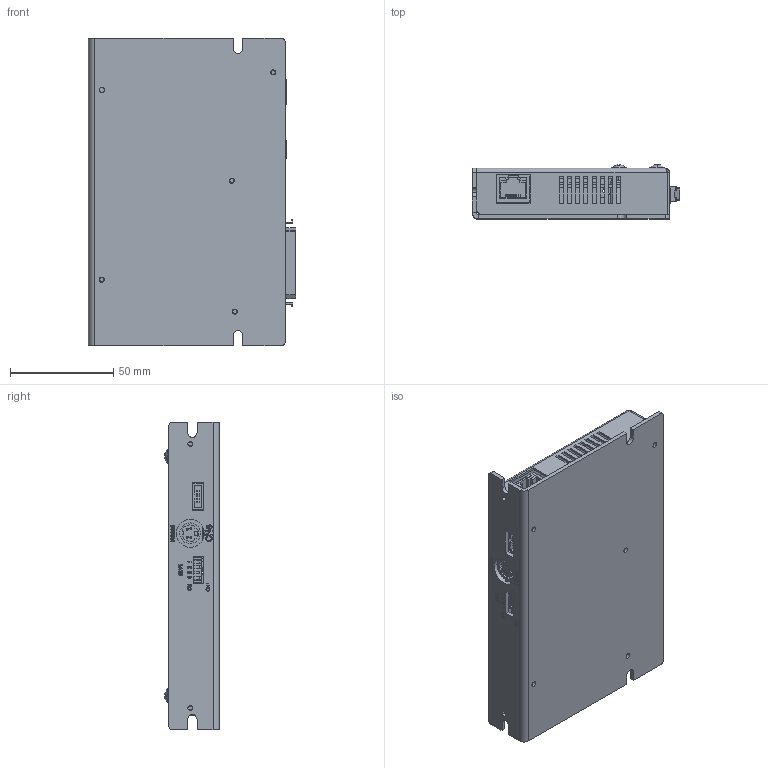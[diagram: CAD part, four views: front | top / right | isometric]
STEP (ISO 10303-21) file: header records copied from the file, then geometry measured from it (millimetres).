
FILE_DESCRIPTION (( 'STEP AP214' ), '1' );
FILE_NAME ('EXC201C.STEP', '2022-03-07T08:42:51', ( '' ), ( '' ), 'SwSTEP 2.0', 'SolidWorks 2021', '' );
FILE_SCHEMA (( 'AUTOMOTIVE_DESIGN' ));
Length unit declared in the file: millimetre
Products named in the file (20): EXC206M-C1B; EXC201M-PC001; EXC201M-PCB02; NKJ3-6_NKJ3-6; TRSS3-6_TRSS3-6; EXC201C; Samtec-MUSB-05-F-B-SM-A; M3X7.8銅柱; 接頭-01; SCSI-50P; M3X16銅柱; D-SUB-44P; EXC206M-C2B-201C; TERMINAL-3P; EXC201M-PCB01; LED-301; TERMINAL-2P; MiniDin-40FC; User Library-RJ45; PC-A03-4(min)
Assembly tree (24 placements, depth 3):
  EXC201C
    EXC206M-C1B
    EXC206M-C2B-201C
    EXC201M-PC001
      EXC201M-PCB01
      TERMINAL-3P
      LED-301
      TERMINAL-2P
      EXC201M-PCB02
      M3X7.8銅柱  x2
      接頭-01
      SCSI-50P
      Samtec-MUSB-05-F-B-SM-A
      D-SUB-44P
      User Library-RJ45
      PC-A03-4(min)
      MiniDin-40FC
    NKJ3-6_NKJ3-6  x3
    TRSS3-6_TRSS3-6  x2
    M3X16銅柱  x2
Bounding box: 100.4 x 26.4 x 149 mm (x, y, z)
Volume: 101205.2 mm3; surface area: 121083.9 mm2
Topology: 32 solids, 32 shells, 2192 faces, 5640 edges, 3694 vertices
Faces by surface type: plane 1439, cylinder 322, bspline 291, cone 112, torus 18, sphere 10
Entity records: 89496 total; most frequent: CARTESIAN_POINT 28452, ORIENTED_EDGE 10540, DIRECTION 8840, EDGE_CURVE 5270, LINE 3940, VECTOR 3940, VERTEX_POINT 3470, AXIS2_PLACEMENT_3D 2450
